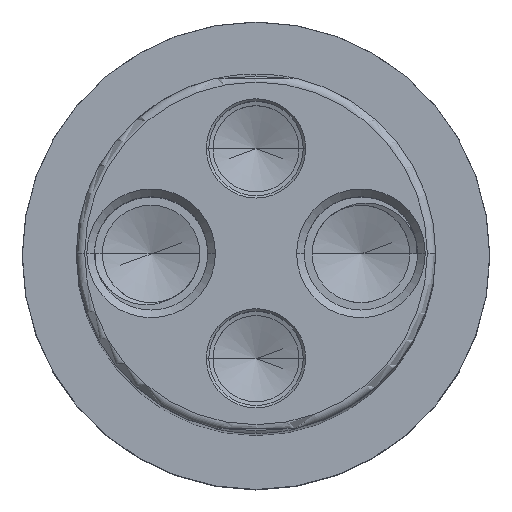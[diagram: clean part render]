
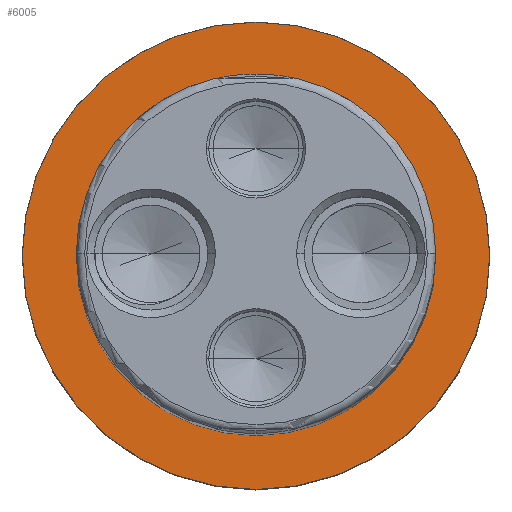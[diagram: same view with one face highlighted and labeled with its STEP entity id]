
A CAD part, top view. The second image highlights one B-rep face of the part: STEP entity #6005.
In plain terms, the highlighted planar face has unit normal (0, 0, 1).
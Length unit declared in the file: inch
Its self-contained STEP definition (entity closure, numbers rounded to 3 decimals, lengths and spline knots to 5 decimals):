
#1 = DIRECTION ( 'NONE',  ( 1., 0., 0. ) ) ;
#17 = CARTESIAN_POINT ( 'NONE',  ( -0.74925, 0., -5.875 ) ) ;
#42 = CARTESIAN_POINT ( 'NONE',  ( 0., 0., -5.875 ) ) ;
#50 = AXIS2_PLACEMENT_3D ( 'NONE', #42, #72, #1 ) ;
#72 = DIRECTION ( 'NONE',  ( 0., 0., 1. ) ) ;
#84 = CIRCLE ( 'NONE', #50, 0.74925 ) ;
#122 = CARTESIAN_POINT ( 'NONE',  ( 0., 0., -5.875 ) ) ;
#123 = DIRECTION ( 'NONE',  ( 1., 0., 0. ) ) ;
#124 = DIRECTION ( 'NONE',  ( 0., 0., 1. ) ) ;
#127 = CARTESIAN_POINT ( 'NONE',  ( 0.97425, 0., -5.875 ) ) ;
#129 = CIRCLE ( 'NONE', #216, 0.97425 ) ;
#130 = CARTESIAN_POINT ( 'NONE',  ( 0., 0., -5.875 ) ) ;
#173 = AXIS2_PLACEMENT_3D ( 'NONE', #130, #124, #123 ) ;
#174 = DIRECTION ( 'NONE',  ( 0., 0., 1. ) ) ;
#206 = CIRCLE ( 'NONE', #173, 0.97425 ) ;
#216 = AXIS2_PLACEMENT_3D ( 'NONE', #122, #174, #245 ) ;
#245 = DIRECTION ( 'NONE',  ( 1., 0., 0. ) ) ;
#261 = CARTESIAN_POINT ( 'NONE',  ( -0.97425, 0., -5.875 ) ) ;
#280 = CARTESIAN_POINT ( 'NONE',  ( 0.74925, 0., -5.875 ) ) ;
#5662 = FACE_OUTER_BOUND ( 'NONE', #6174, .T. ) ;
#5663 = CIRCLE ( 'NONE', #5724, 0.74925 ) ;
#5669 = FACE_BOUND ( 'NONE', #6163, .T. ) ;
#5672 = PLANE ( 'NONE',  #5675 ) ;
#5675 = AXIS2_PLACEMENT_3D ( 'NONE', #5705, #5704, #5703 ) ;
#5703 = DIRECTION ( 'NONE',  ( 1., 0., 0. ) ) ;
#5704 = DIRECTION ( 'NONE',  ( 0., 0., 1. ) ) ;
#5705 = CARTESIAN_POINT ( 'NONE',  ( 0., 0., -5.875 ) ) ;
#5721 = DIRECTION ( 'NONE',  ( 1., 0., 0. ) ) ;
#5722 = DIRECTION ( 'NONE',  ( 0., 0., 1. ) ) ;
#5723 = CARTESIAN_POINT ( 'NONE',  ( 0., 0., -5.875 ) ) ;
#5724 = AXIS2_PLACEMENT_3D ( 'NONE', #5723, #5722, #5721 ) ;
#6004 = EDGE_CURVE ( 'NONE', #6077, #6181, #5663, .T. ) ;
#6005 = ADVANCED_FACE ( 'NONE', ( #5662, #5669 ), #5672, .T. ) ;
#6074 = ORIENTED_EDGE ( 'NONE', *, *, #6169, .T. ) ;
#6075 = EDGE_CURVE ( 'NONE', #6181, #6077, #84, .T. ) ;
#6077 = VERTEX_POINT ( 'NONE', #17 ) ;
#6163 = EDGE_LOOP ( 'NONE', ( #6193, #6195 ) ) ;
#6164 = EDGE_CURVE ( 'NONE', #6165, #6172, #206, .T. ) ;
#6165 = VERTEX_POINT ( 'NONE', #127 ) ;
#6169 = EDGE_CURVE ( 'NONE', #6172, #6165, #129, .T. ) ;
#6172 = VERTEX_POINT ( 'NONE', #261 ) ;
#6174 = EDGE_LOOP ( 'NONE', ( #6074, #6191 ) ) ;
#6181 = VERTEX_POINT ( 'NONE', #280 ) ;
#6191 = ORIENTED_EDGE ( 'NONE', *, *, #6164, .T. ) ;
#6193 = ORIENTED_EDGE ( 'NONE', *, *, #6004, .F. ) ;
#6195 = ORIENTED_EDGE ( 'NONE', *, *, #6075, .F. ) ;
